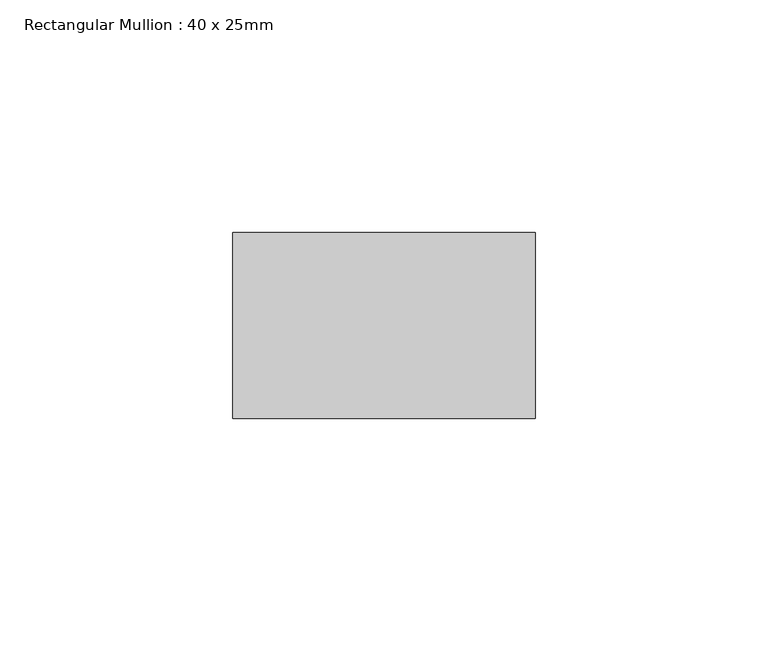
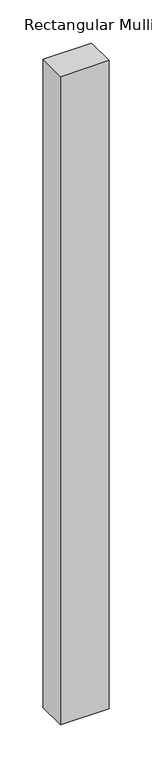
"""IFC4 building model written with IfcOpenShell, lengths in millimetres: member geometry, Rectangular Mullion : 40 x 25mm."""

import ifcopenshell
import ifcopenshell.guid

model = None  # the IFC model being written
_history = None  # IfcOwnerHistory: only IFC2X3 demands one
_inside = {}  # id of a spatial element -> (the spatial element, [elements in it])
_under = {}  # id of a project, library or spatial element -> (it, [spatial elements below it])
_declared = {}  # id of a project -> (the project, [libraries it declares])
_typed = {}  # id of a type object -> (the type object, [elements of that type])
_made_of = {}  # id of a material, layer set ... -> (it, [elements and type objects made of it])


def new_model(schema):
    """Start an empty IFC model of exactly this schema.

    Asked for "IFC4X3", IfcOpenShell would pick the latest addendum, in which some entities
    have other attributes; the version numbers below select the first issue.
    IFC2X3 requires an IfcOwnerHistory on every rooted entity: one is made here for all.
    """
    global model, _history
    if schema == "IFC4X3":
        model = ifcopenshell.file(schema_version=(4, 3, 0, 0))
    else:
        model = ifcopenshell.file(schema=schema)
    _inside.clear()
    _under.clear()
    _declared.clear()
    _typed.clear()
    _made_of.clear()
    _history = None
    if model.schema == "IFC2X3":
        org = make("IfcOrganization", Name="unknown")
        user = make(
            "IfcPersonAndOrganization",
            ThePerson=make("IfcPerson", FamilyName="unknown"),
            TheOrganization=org,
        )
        app = make(
            "IfcApplication",
            ApplicationDeveloper=org,
            Version="unknown",
            ApplicationFullName="unknown",
            ApplicationIdentifier="unknown",
        )
        _history = make(
            "IfcOwnerHistory",
            OwningUser=user,
            OwningApplication=app,
            ChangeAction="ADDED",
            CreationDate=0,
        )
    return model


def make(cls, **values):
    """One entity of the class cls with the attributes given. An attribute that is None is left unset."""
    return model.create_entity(
        cls, **{name: value for name, value in values.items() if value is not None}
    )


def rooted(cls, **values):
    """An entity with a GlobalId (a new one), such as an element, a storey or a relation."""
    return make(cls, GlobalId=ifcopenshell.guid.new(), OwnerHistory=_history, **values)


def si_unit(unit_type, name, prefix=None):
    """IfcSIUnit, for example si_unit("LENGTHUNIT", "METRE", prefix="MILLI")."""
    return make("IfcSIUnit", UnitType=unit_type, Prefix=prefix, Name=name)


def assignment(units):
    """IfcUnitAssignment: the units of a project."""
    return None if units is None else make("IfcUnitAssignment", Units=units)


def point(xyz):
    """IfcCartesianPoint."""
    return None if xyz is None else make("IfcCartesianPoint", Coordinates=xyz)


def direction(xyz):
    """IfcDirection."""
    return None if xyz is None else make("IfcDirection", DirectionRatios=xyz)


def frame(location, z_axis=None, x_axis=None):
    """IfcAxis2Placement3D, a coordinate frame: its origin and axes. An axis left out is left unset."""
    return make(
        "IfcAxis2Placement3D",
        Location=point(location),
        Axis=direction(z_axis),
        RefDirection=direction(x_axis),
    )


def origin():
    """The frame at (0, 0, 0) with its axes left unset."""
    return frame((0.0, 0.0, 0.0))


def place(relative_to, where):
    """IfcLocalPlacement: puts the frame where relative to a parent placement (None: the world)."""
    return make(
        "IfcLocalPlacement", PlacementRelTo=relative_to, RelativePlacement=where
    )


def context(
    kind, dimensions, precision=None, world=None, true_north=None, identifier=None
):
    """IfcGeometricRepresentationContext, for example the 3D "Model" context."""
    return make(
        "IfcGeometricRepresentationContext",
        ContextIdentifier=identifier,
        ContextType=kind,
        CoordinateSpaceDimension=dimensions,
        Precision=precision,
        WorldCoordinateSystem=world,
        TrueNorth=true_north,
    )


def project(units=None, contexts=None):
    """IfcProject with its units and contexts."""
    return rooted(
        "IfcProject",
        Name="project",
        RepresentationContexts=contexts,
        UnitsInContext=assignment(units),
    )


def spatial(cls, under=None, at=None, **own):
    """A site, building, storey or space (cls), placed at a placement, below another one or the project."""
    s = rooted(cls, ObjectPlacement=at, **own)
    if under is not None:
        _under.setdefault(under.id(), (under, []))[1].append(s)
    return s


def polyline(points):
    """IfcPolyline through the points."""
    return make("IfcPolyline", Points=[point(p) for p in points])


def outline(outer, holes=None, kind="AREA"):
    """IfcArbitraryClosedProfileDef: a profile drawn as a closed curve; with holes, ...WithVoids."""
    if holes is None:
        return make("IfcArbitraryClosedProfileDef", ProfileType=kind, OuterCurve=outer)
    return make(
        "IfcArbitraryProfileDefWithVoids",
        ProfileType=kind,
        OuterCurve=outer,
        InnerCurves=holes,
    )


def extrude(swept, where, along, depth):
    """IfcExtrudedAreaSolid: the profile swept, set in the frame where, extruded along a direction by depth."""
    return make(
        "IfcExtrudedAreaSolid",
        SweptArea=swept,
        Position=where,
        ExtrudedDirection=direction(along),
        Depth=depth,
    )


def shape(context_of_items, identifier, shape_type, items):
    """IfcShapeRepresentation: the items that make up one representation, for example the "Body"."""
    return make(
        "IfcShapeRepresentation",
        ContextOfItems=context_of_items,
        RepresentationIdentifier=identifier,
        RepresentationType=shape_type,
        Items=items,
    )


def source(mapping_origin, context_of_items, identifier, shape_type, items):
    """IfcRepresentationMap: a shape defined once, which mapped items show again and again."""
    return make(
        "IfcRepresentationMap",
        MappingOrigin=mapping_origin,
        MappedRepresentation=shape(context_of_items, identifier, shape_type, items),
    )


def transform(
    local_origin,
    x_axis=None,
    y_axis=None,
    z_axis=None,
    scale=None,
    scale2=None,
    scale3=None,
    uniform=True,
):
    """IfcCartesianTransformationOperator3D, or its non-uniform kind. x_axis, y_axis, z_axis: its Axis1, 2, 3."""
    if uniform:
        return make(
            "IfcCartesianTransformationOperator3D",
            Axis1=direction(x_axis),
            Axis2=direction(y_axis),
            LocalOrigin=point(local_origin),
            Scale=scale,
            Axis3=direction(z_axis),
        )
    return make(
        "IfcCartesianTransformationOperator3DnonUniform",
        Axis1=direction(x_axis),
        Axis2=direction(y_axis),
        LocalOrigin=point(local_origin),
        Scale=scale,
        Axis3=direction(z_axis),
        Scale2=scale2,
        Scale3=scale3,
    )


def mapped(mapping_source, mapping_target):
    """IfcMappedItem: shows the shape of a source again, moved by a transform."""
    return make(
        "IfcMappedItem", MappingSource=mapping_source, MappingTarget=mapping_target
    )


def made_of(thing, what):
    """Note that an element or type object is made of a material, layer set ...; save() writes the relation."""
    if what is not None:
        _made_of.setdefault(what.id(), (what, []))[1].append(thing)
    return thing


def element(
    cls,
    number,
    at=None,
    inside=None,
    cuts=None,
    type_object=None,
    material=None,
    context=None,
    identifier="Body",
    shape_type=None,
    held_by="IfcProductDefinitionShape",
    body=None,
    shapes=None,
    **own,
):
    """One element of the class cls, such as IfcWall. Its Tag is "e" and its number.

    at: its placement. inside: the storey or other place that contains it. cuts: it is an
    opening in that element (IfcRelVoidsElement). A single representation is given by context,
    identifier, shape_type and body (its items); several are given by shapes. held_by: the class
    of the entity that holds the representations. save() writes the other relations.
    """
    e = rooted(cls, Tag="e%d" % number, ObjectPlacement=at, **own)
    if body is not None:
        shapes = [shape(context, identifier, shape_type, body)]
    if shapes is not None:
        e.Representation = make(held_by, Representations=shapes)
    if inside is not None:
        _inside.setdefault(inside.id(), (inside, []))[1].append(e)
    if cuts is not None:
        rooted(
            "IfcRelVoidsElement", RelatingBuildingElement=cuts, RelatedOpeningElement=e
        )
    if type_object is not None:
        _typed.setdefault(type_object.id(), (type_object, []))[1].append(e)
    return made_of(e, material)


def aggregate(whole, parts):
    """IfcRelAggregates: a whole, such as a stair, and the parts it consists of."""
    return rooted("IfcRelAggregates", RelatingObject=whole, RelatedObjects=parts)


def save(model, path):
    """Write the relations noted so far, then the file.

    IfcRelAggregates (storeys below a building ...), IfcRelContainedInSpatialStructure (elements
    in a storey), IfcRelDefinesByType, IfcRelAssociatesMaterial and IfcRelDeclares: one each for
    every whole, place, type object, material and project.
    """
    for whole, parts in _under.values():
        aggregate(whole, parts)
    for where, things in _inside.values():
        rooted(
            "IfcRelContainedInSpatialStructure",
            RelatedElements=things,
            RelatingStructure=where,
        )
    for kind, things in _typed.values():
        rooted("IfcRelDefinesByType", RelatedObjects=things, RelatingType=kind)
    for what, things in _made_of.values():
        rooted("IfcRelAssociatesMaterial", RelatedObjects=things, RelatingMaterial=what)
    for by, libraries in _declared.values():
        rooted("IfcRelDeclares", RelatingContext=by, RelatedDefinitions=libraries)
    model.write(path)


def rectangular_mullion_40_x_25mm_82daa1e7(model_context):
    return source(origin(), model_context, "Body", "SweptSolid", [
        extrude(outline(polyline([(0.0, -20.0), (0.0, -60.0), (-65.0, -60.0), (-65.0, -20.0), (0.0, -20.0)])), frame((0.0, 0.0, -915.0), z_axis=(0.0, 0.0, 1.0), x_axis=(1.0, 0.0, 0.0)), (0.0, 0.0, 1.0), 915.0),
    ])


if __name__ == "__main__":
    model = new_model("IFC4")
    model_context = context("Model", 3, world=origin())
    ifc_project = project(units=[si_unit("LENGTHUNIT", "METRE", prefix="MILLI")], contexts=[model_context])
    site = spatial("IfcSite", under=ifc_project)
    building = spatial("IfcBuilding", under=site)
    placement = place(None, origin())
    rectangular_mullion_40_x_25mm_shape = rectangular_mullion_40_x_25mm_82daa1e7(model_context)
    element("IfcMember", 1, ObjectType="Rectangular Mullion : 40 x 25mm", at=placement, inside=building, context=model_context, shape_type="MappedRepresentation", body=[
        mapped(rectangular_mullion_40_x_25mm_shape, transform((0.0, 0.0, 0.0), x_axis=(1.0, 0.0, 0.0), y_axis=(0.0, 1.0, 0.0), z_axis=(0.0, 0.0, 1.0))),
    ])
    save(model, "model.ifc")
